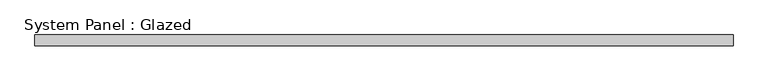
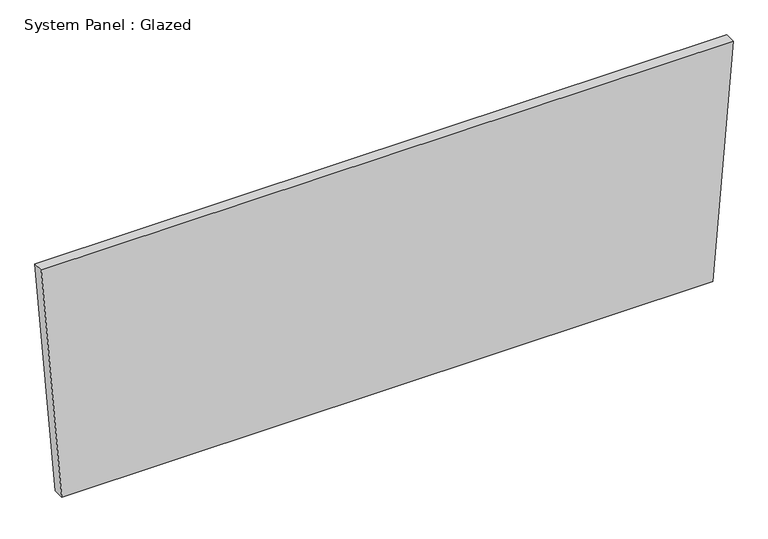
"""IFC4 building model written with IfcOpenShell, lengths in millimetres: plate geometry, System Panel : Glazed."""

import ifcopenshell
import ifcopenshell.guid

model = None  # the IFC model being written
_history = None  # IfcOwnerHistory: only IFC2X3 demands one
_inside = {}  # id of a spatial element -> (the spatial element, [elements in it])
_under = {}  # id of a project, library or spatial element -> (it, [spatial elements below it])
_declared = {}  # id of a project -> (the project, [libraries it declares])
_typed = {}  # id of a type object -> (the type object, [elements of that type])
_made_of = {}  # id of a material, layer set ... -> (it, [elements and type objects made of it])


def new_model(schema):
    """Start an empty IFC model of exactly this schema.

    Asked for "IFC4X3", IfcOpenShell would pick the latest addendum, in which some entities
    have other attributes; the version numbers below select the first issue.
    IFC2X3 requires an IfcOwnerHistory on every rooted entity: one is made here for all.
    """
    global model, _history
    if schema == "IFC4X3":
        model = ifcopenshell.file(schema_version=(4, 3, 0, 0))
    else:
        model = ifcopenshell.file(schema=schema)
    _inside.clear()
    _under.clear()
    _declared.clear()
    _typed.clear()
    _made_of.clear()
    _history = None
    if model.schema == "IFC2X3":
        org = make("IfcOrganization", Name="unknown")
        user = make(
            "IfcPersonAndOrganization",
            ThePerson=make("IfcPerson", FamilyName="unknown"),
            TheOrganization=org,
        )
        app = make(
            "IfcApplication",
            ApplicationDeveloper=org,
            Version="unknown",
            ApplicationFullName="unknown",
            ApplicationIdentifier="unknown",
        )
        _history = make(
            "IfcOwnerHistory",
            OwningUser=user,
            OwningApplication=app,
            ChangeAction="ADDED",
            CreationDate=0,
        )
    return model


def make(cls, **values):
    """One entity of the class cls with the attributes given. An attribute that is None is left unset."""
    return model.create_entity(
        cls, **{name: value for name, value in values.items() if value is not None}
    )


def rooted(cls, **values):
    """An entity with a GlobalId (a new one), such as an element, a storey or a relation."""
    return make(cls, GlobalId=ifcopenshell.guid.new(), OwnerHistory=_history, **values)


def si_unit(unit_type, name, prefix=None):
    """IfcSIUnit, for example si_unit("LENGTHUNIT", "METRE", prefix="MILLI")."""
    return make("IfcSIUnit", UnitType=unit_type, Prefix=prefix, Name=name)


def assignment(units):
    """IfcUnitAssignment: the units of a project."""
    return None if units is None else make("IfcUnitAssignment", Units=units)


def point(xyz):
    """IfcCartesianPoint."""
    return None if xyz is None else make("IfcCartesianPoint", Coordinates=xyz)


def direction(xyz):
    """IfcDirection."""
    return None if xyz is None else make("IfcDirection", DirectionRatios=xyz)


def frame(location, z_axis=None, x_axis=None):
    """IfcAxis2Placement3D, a coordinate frame: its origin and axes. An axis left out is left unset."""
    return make(
        "IfcAxis2Placement3D",
        Location=point(location),
        Axis=direction(z_axis),
        RefDirection=direction(x_axis),
    )


def origin():
    """The frame at (0, 0, 0) with its axes left unset."""
    return frame((0.0, 0.0, 0.0))


def place(relative_to, where):
    """IfcLocalPlacement: puts the frame where relative to a parent placement (None: the world)."""
    return make(
        "IfcLocalPlacement", PlacementRelTo=relative_to, RelativePlacement=where
    )


def context(
    kind, dimensions, precision=None, world=None, true_north=None, identifier=None
):
    """IfcGeometricRepresentationContext, for example the 3D "Model" context."""
    return make(
        "IfcGeometricRepresentationContext",
        ContextIdentifier=identifier,
        ContextType=kind,
        CoordinateSpaceDimension=dimensions,
        Precision=precision,
        WorldCoordinateSystem=world,
        TrueNorth=true_north,
    )


def project(units=None, contexts=None):
    """IfcProject with its units and contexts."""
    return rooted(
        "IfcProject",
        Name="project",
        RepresentationContexts=contexts,
        UnitsInContext=assignment(units),
    )


def spatial(cls, under=None, at=None, **own):
    """A site, building, storey or space (cls), placed at a placement, below another one or the project."""
    s = rooted(cls, ObjectPlacement=at, **own)
    if under is not None:
        _under.setdefault(under.id(), (under, []))[1].append(s)
    return s


def polyline(points):
    """IfcPolyline through the points."""
    return make("IfcPolyline", Points=[point(p) for p in points])


def outline(outer, holes=None, kind="AREA"):
    """IfcArbitraryClosedProfileDef: a profile drawn as a closed curve; with holes, ...WithVoids."""
    if holes is None:
        return make("IfcArbitraryClosedProfileDef", ProfileType=kind, OuterCurve=outer)
    return make(
        "IfcArbitraryProfileDefWithVoids",
        ProfileType=kind,
        OuterCurve=outer,
        InnerCurves=holes,
    )


def extrude(swept, where, along, depth):
    """IfcExtrudedAreaSolid: the profile swept, set in the frame where, extruded along a direction by depth."""
    return make(
        "IfcExtrudedAreaSolid",
        SweptArea=swept,
        Position=where,
        ExtrudedDirection=direction(along),
        Depth=depth,
    )


def shape(context_of_items, identifier, shape_type, items):
    """IfcShapeRepresentation: the items that make up one representation, for example the "Body"."""
    return make(
        "IfcShapeRepresentation",
        ContextOfItems=context_of_items,
        RepresentationIdentifier=identifier,
        RepresentationType=shape_type,
        Items=items,
    )


def source(mapping_origin, context_of_items, identifier, shape_type, items):
    """IfcRepresentationMap: a shape defined once, which mapped items show again and again."""
    return make(
        "IfcRepresentationMap",
        MappingOrigin=mapping_origin,
        MappedRepresentation=shape(context_of_items, identifier, shape_type, items),
    )


def transform(
    local_origin,
    x_axis=None,
    y_axis=None,
    z_axis=None,
    scale=None,
    scale2=None,
    scale3=None,
    uniform=True,
):
    """IfcCartesianTransformationOperator3D, or its non-uniform kind. x_axis, y_axis, z_axis: its Axis1, 2, 3."""
    if uniform:
        return make(
            "IfcCartesianTransformationOperator3D",
            Axis1=direction(x_axis),
            Axis2=direction(y_axis),
            LocalOrigin=point(local_origin),
            Scale=scale,
            Axis3=direction(z_axis),
        )
    return make(
        "IfcCartesianTransformationOperator3DnonUniform",
        Axis1=direction(x_axis),
        Axis2=direction(y_axis),
        LocalOrigin=point(local_origin),
        Scale=scale,
        Axis3=direction(z_axis),
        Scale2=scale2,
        Scale3=scale3,
    )


def mapped(mapping_source, mapping_target):
    """IfcMappedItem: shows the shape of a source again, moved by a transform."""
    return make(
        "IfcMappedItem", MappingSource=mapping_source, MappingTarget=mapping_target
    )


def made_of(thing, what):
    """Note that an element or type object is made of a material, layer set ...; save() writes the relation."""
    if what is not None:
        _made_of.setdefault(what.id(), (what, []))[1].append(thing)
    return thing


def element(
    cls,
    number,
    at=None,
    inside=None,
    cuts=None,
    type_object=None,
    material=None,
    context=None,
    identifier="Body",
    shape_type=None,
    held_by="IfcProductDefinitionShape",
    body=None,
    shapes=None,
    **own,
):
    """One element of the class cls, such as IfcWall. Its Tag is "e" and its number.

    at: its placement. inside: the storey or other place that contains it. cuts: it is an
    opening in that element (IfcRelVoidsElement). A single representation is given by context,
    identifier, shape_type and body (its items); several are given by shapes. held_by: the class
    of the entity that holds the representations. save() writes the other relations.
    """
    e = rooted(cls, Tag="e%d" % number, ObjectPlacement=at, **own)
    if body is not None:
        shapes = [shape(context, identifier, shape_type, body)]
    if shapes is not None:
        e.Representation = make(held_by, Representations=shapes)
    if inside is not None:
        _inside.setdefault(inside.id(), (inside, []))[1].append(e)
    if cuts is not None:
        rooted(
            "IfcRelVoidsElement", RelatingBuildingElement=cuts, RelatedOpeningElement=e
        )
    if type_object is not None:
        _typed.setdefault(type_object.id(), (type_object, []))[1].append(e)
    return made_of(e, material)


def aggregate(whole, parts):
    """IfcRelAggregates: a whole, such as a stair, and the parts it consists of."""
    return rooted("IfcRelAggregates", RelatingObject=whole, RelatedObjects=parts)


def save(model, path):
    """Write the relations noted so far, then the file.

    IfcRelAggregates (storeys below a building ...), IfcRelContainedInSpatialStructure (elements
    in a storey), IfcRelDefinesByType, IfcRelAssociatesMaterial and IfcRelDeclares: one each for
    every whole, place, type object, material and project.
    """
    for whole, parts in _under.values():
        aggregate(whole, parts)
    for where, things in _inside.values():
        rooted(
            "IfcRelContainedInSpatialStructure",
            RelatedElements=things,
            RelatingStructure=where,
        )
    for kind, things in _typed.values():
        rooted("IfcRelDefinesByType", RelatedObjects=things, RelatingType=kind)
    for what, things in _made_of.values():
        rooted("IfcRelAssociatesMaterial", RelatedObjects=things, RelatingMaterial=what)
    for by, libraries in _declared.values():
        rooted("IfcRelDeclares", RelatingContext=by, RelatedDefinitions=libraries)
    model.write(path)


def system_panel_glazed_1b2c1e4f(model_context):
    return source(origin(), model_context, "Body", "SweptSolid", [
        extrude(outline(polyline([(0.0, -765.5979172), (0.0, 765.5979172), (582.1260136, 813.7397752), (582.1260136, -813.7397752), (0.0, -765.5979172)])), frame((0.0, -44.45, 0.0), z_axis=(0.0, 1.0, 0.0), x_axis=(0.0, 0.0, 1.0)), (0.0, 0.0, 1.0), 25.4),
    ])


if __name__ == "__main__":
    model = new_model("IFC4")
    model_context = context("Model", 3, world=origin())
    ifc_project = project(units=[si_unit("LENGTHUNIT", "METRE", prefix="MILLI")], contexts=[model_context])
    site = spatial("IfcSite", under=ifc_project)
    building = spatial("IfcBuilding", under=site)
    placement = place(None, origin())
    system_panel_glazed_shape = system_panel_glazed_1b2c1e4f(model_context)
    element("IfcPlate", 1, ObjectType="System Panel : Glazed", at=placement, inside=building, context=model_context, shape_type="MappedRepresentation", body=[
        mapped(system_panel_glazed_shape, transform((0.0, 0.0, 0.0), x_axis=(1.0, 0.0, 0.0), y_axis=(0.0, 1.0, 0.0), z_axis=(0.0, 0.0, 1.0))),
    ])
    save(model, "model.ifc")
